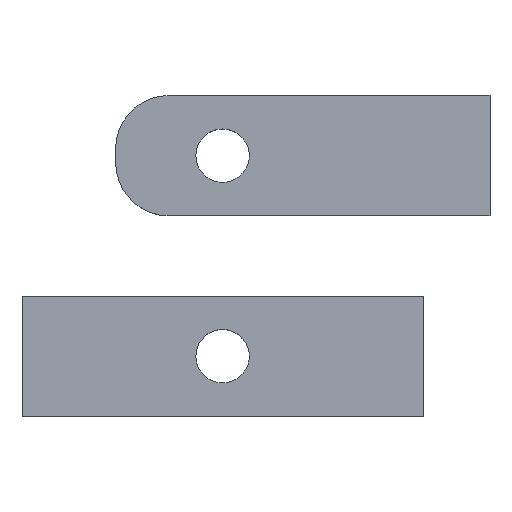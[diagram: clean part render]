
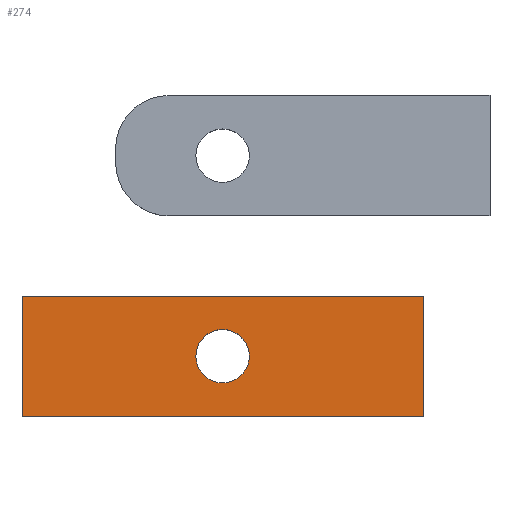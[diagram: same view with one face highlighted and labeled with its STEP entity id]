
A CAD part, top view. The second image highlights one B-rep face of the part: STEP entity #274.
In plain terms, the highlighted planar face has unit normal (0, 0, 1).
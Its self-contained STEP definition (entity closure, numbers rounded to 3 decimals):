
#17=FACE_BOUND('',#55,.T.);
#21=CIRCLE('',#302,2.);
#38=FACE_OUTER_BOUND('',#54,.T.);
#54=EDGE_LOOP('',(#205,#206,#207,#208));
#55=EDGE_LOOP('',(#209));
#71=LINE('',#410,#99);
#75=LINE('',#422,#103);
#78=LINE('',#428,#106);
#81=LINE('',#432,#109);
#99=VECTOR('',#330,10.);
#103=VECTOR('',#342,10.);
#106=VECTOR('',#347,10.);
#109=VECTOR('',#352,10.);
#127=VERTEX_POINT('',#407);
#128=VERTEX_POINT('',#409);
#129=VERTEX_POINT('',#413);
#132=VERTEX_POINT('',#421);
#134=VERTEX_POINT('',#427);
#151=EDGE_CURVE('',#127,#128,#71,.T.);
#153=EDGE_CURVE('',#129,#129,#21,.T.);
#157=EDGE_CURVE('',#132,#128,#75,.T.);
#160=EDGE_CURVE('',#134,#132,#78,.T.);
#163=EDGE_CURVE('',#134,#127,#81,.T.);
#205=ORIENTED_EDGE('',*,*,#163,.F.);
#206=ORIENTED_EDGE('',*,*,#160,.T.);
#207=ORIENTED_EDGE('',*,*,#157,.T.);
#208=ORIENTED_EDGE('',*,*,#151,.F.);
#209=ORIENTED_EDGE('',*,*,#153,.T.);
#261=PLANE('',#307);
#274=ADVANCED_FACE('',(#38,#17),#261,.T.);
#302=AXIS2_PLACEMENT_3D('',#414,#334,#335);
#307=AXIS2_PLACEMENT_3D('',#433,#353,#354);
#330=DIRECTION('',(0.,1.,0.));
#334=DIRECTION('center_axis',(0.,0.,-1.));
#335=DIRECTION('ref_axis',(-1.,0.,0.));
#342=DIRECTION('',(-1.,0.,0.));
#347=DIRECTION('',(0.,1.,0.));
#352=DIRECTION('',(-1.,0.,0.));
#353=DIRECTION('center_axis',(0.,0.,1.));
#354=DIRECTION('ref_axis',(1.,0.,0.));
#407=CARTESIAN_POINT('',(-5.,0.,5.5));
#409=CARTESIAN_POINT('',(-5.,9.,5.5));
#410=CARTESIAN_POINT('',(-5.,9.,5.5));
#413=CARTESIAN_POINT('',(12.,4.5,5.5));
#414=CARTESIAN_POINT('Origin',(10.,4.5,5.5));
#421=CARTESIAN_POINT('',(25.,9.,5.5));
#422=CARTESIAN_POINT('',(25.,9.,5.5));
#427=CARTESIAN_POINT('',(25.,0.,5.5));
#428=CARTESIAN_POINT('',(25.,0.,5.5));
#432=CARTESIAN_POINT('',(0.,0.,5.5));
#433=CARTESIAN_POINT('Origin',(12.5,4.5,5.5));
